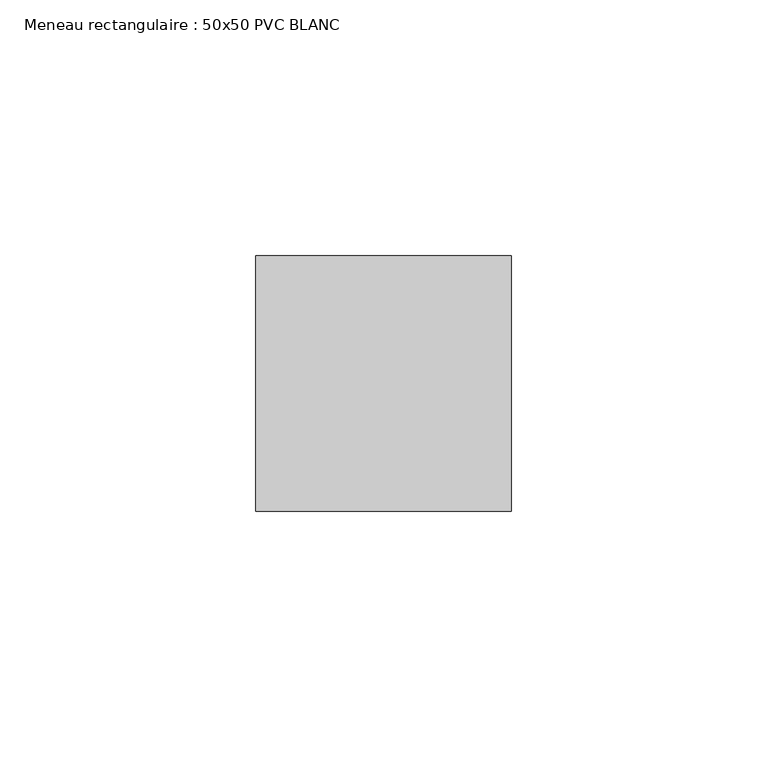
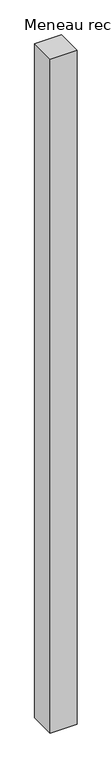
"""IFC4 building model written with IfcOpenShell, lengths in millimetres: member geometry, Meneau rectangulaire : 50x50 PVC BLANC."""

from ifc_helpers import new_model, si_unit, frame, origin, place, context, project, spatial, polyline, outline, extrude, source, transform, mapped, element, save


def meneau_rectangulaire_50x50_pvc_blanc_8cadc58d(model_context):
    return source(origin(), model_context, "Body", "SweptSolid", [
        extrude(outline(polyline([(0.0, 0.0), (0.0, -50.0), (-50.0, -50.0), (-50.0, 0.0), (0.0, 0.0)])), frame((0.0, 0.0, -1329.2667148), z_axis=(0.0, 0.0, 1.0), x_axis=(1.0, 0.0, 0.0)), (0.0, 0.0, 1.0), 1329.2667148),
    ])


if __name__ == "__main__":
    model = new_model("IFC4")
    model_context = context("Model", 3, world=origin())
    ifc_project = project(units=[si_unit("LENGTHUNIT", "METRE", prefix="MILLI")], contexts=[model_context])
    site = spatial("IfcSite", under=ifc_project)
    building = spatial("IfcBuilding", under=site)
    placement = place(None, origin())
    meneau_rectangulaire_50x50_pvc_blanc_shape = meneau_rectangulaire_50x50_pvc_blanc_8cadc58d(model_context)
    element("IfcMember", 1, ObjectType="Meneau rectangulaire : 50x50 PVC BLANC", at=placement, inside=building, context=model_context, shape_type="MappedRepresentation", body=[
        mapped(meneau_rectangulaire_50x50_pvc_blanc_shape, transform((0.0, 0.0, 0.0), x_axis=(1.0, 0.0, 0.0), y_axis=(0.0, 1.0, 0.0), z_axis=(0.0, 0.0, 1.0))),
    ])
    save(model, "model.ifc")
